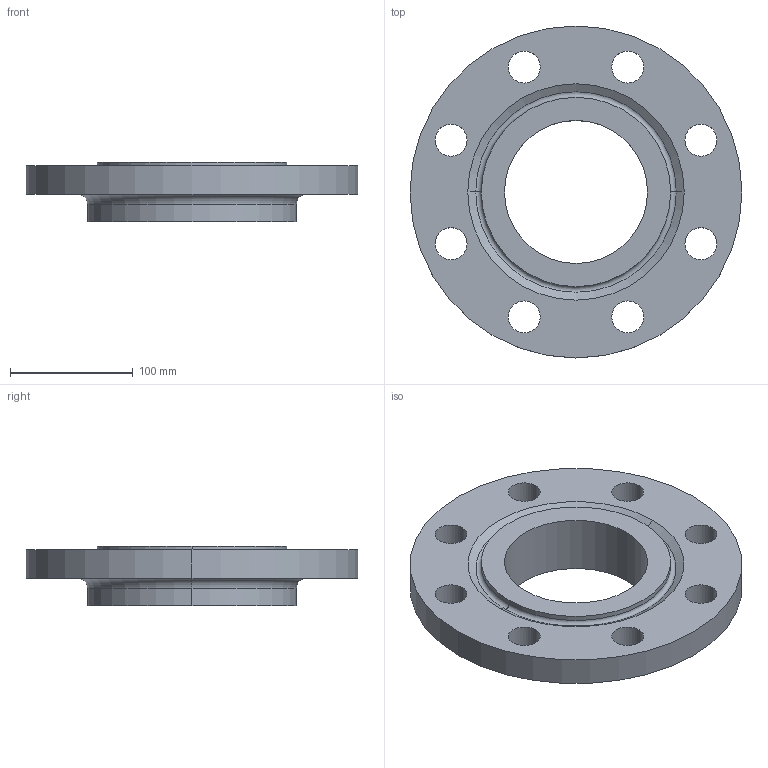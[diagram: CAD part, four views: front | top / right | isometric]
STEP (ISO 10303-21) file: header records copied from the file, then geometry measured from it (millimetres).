
FILE_DESCRIPTION (( 'STEP AP214' ), '1' );
FILE_NAME ('PN40 DN125 Type 13 - Type H Face.STEP', '2019-01-02T02:07:42', ( '' ), ( '' ), 'SwSTEP 2.0', 'SolidWorks 2019', '' );
FILE_SCHEMA (( 'AUTOMOTIVE_DESIGN' ));
Length unit declared in the file: millimetre
Products named in the file (1): PN40 DN125 Type 13 - Type H Face
Bounding box: 270 x 270 x 48 mm (x, y, z)
Volume: 1272797.3 mm3; surface area: 150967.2 mm2
Topology: 1 solids, 1 shells, 34 faces, 84 edges, 54 vertices
Faces by surface type: cylinder 24, torus 4, plane 4, cone 2
Entity records: 1108 total; most frequent: DIRECTION 212, CARTESIAN_POINT 173, ORIENTED_EDGE 168, AXIS2_PLACEMENT_3D 93, EDGE_CURVE 84, CIRCLE 58, EDGE_LOOP 54, VERTEX_POINT 54
